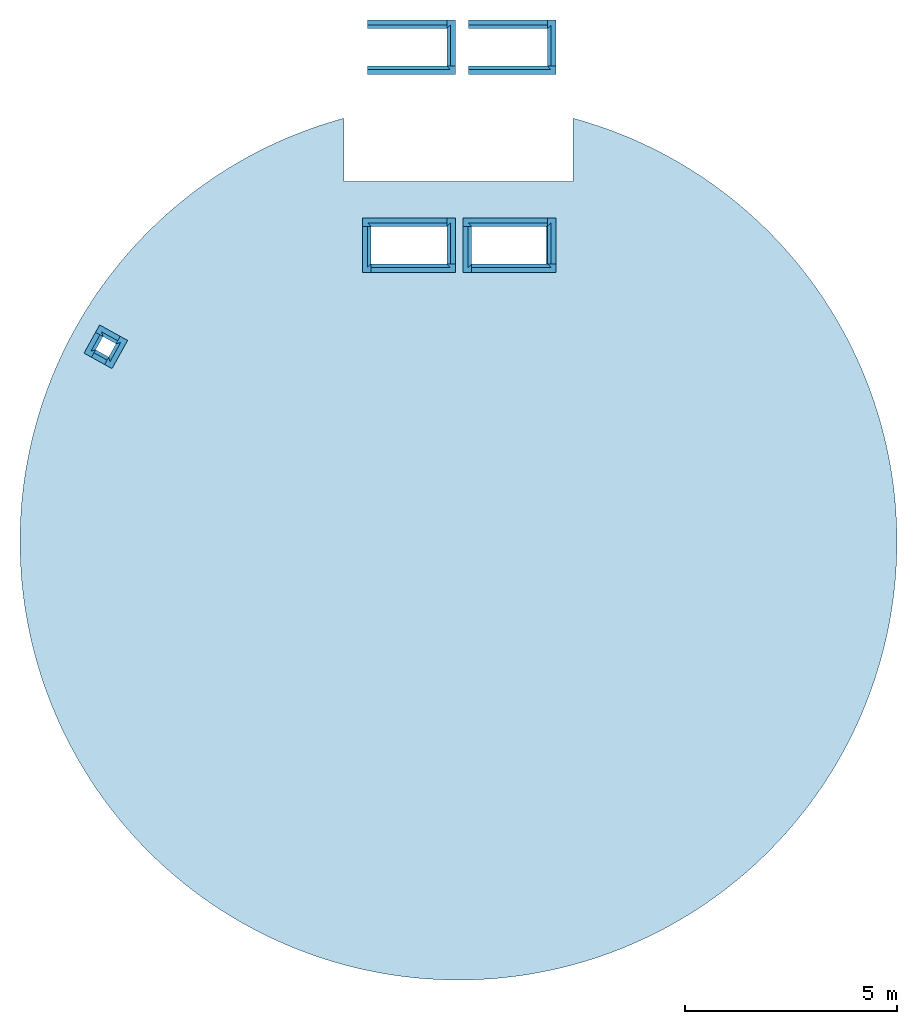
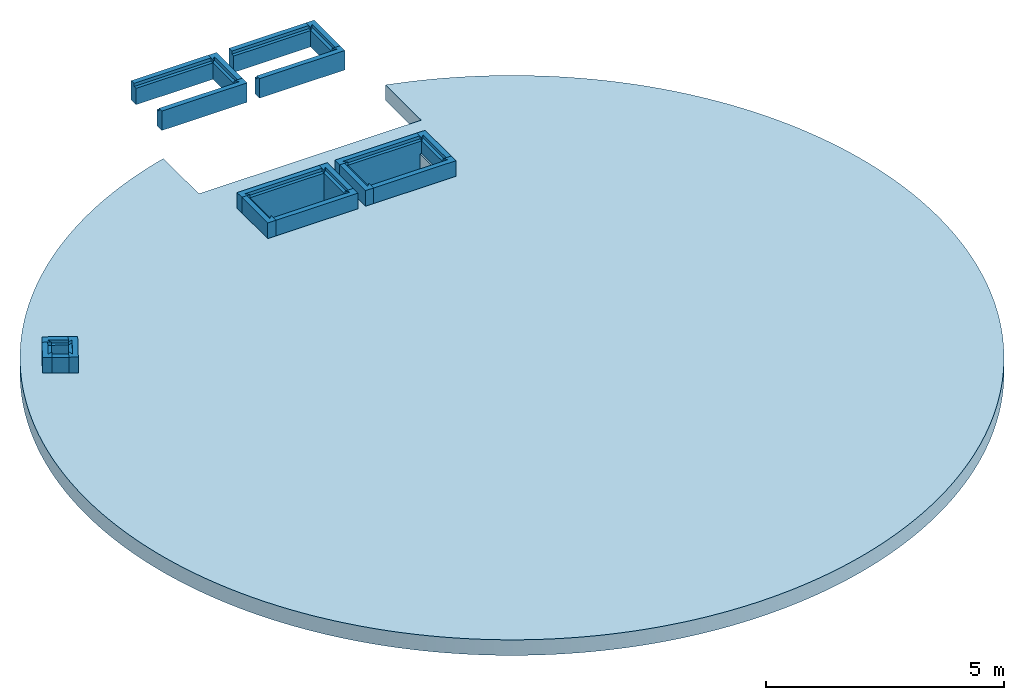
# One storey: 18 walls, 1 slab, 21 openings.
"""IFC2X3 building model written with IfcOpenShell, lengths in centimetres."""

from ifc_helpers import new_model, entity, si_unit, converted_unit, derived_unit, direction, frame, frame_2d, origin, origin_2d_with_axis, place, context, subcontext, project, spatial, polyline, circle_curve, parameter, trimmed, segment, composite_curve, rectangle, outline, extrude, faceted_brep, material, layer, layer_set, layer_usage, type_object, element, save


model = new_model("IFC2X3")

# Units and contexts
model_context = context("Model", 3, precision=0.001, world=origin(), true_north=direction((6.12303176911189e-17, 1.0)))
body_context = subcontext(model_context, "Body", "Model", "MODEL_VIEW")
ifc_project = project(units=[si_unit("LENGTHUNIT", "METRE", prefix="CENTI"), si_unit("AREAUNIT", "SQUARE_METRE"), si_unit("VOLUMEUNIT", "CUBIC_METRE"), converted_unit("PLANEANGLEUNIT", "DEGREE", entity("IfcRatioMeasure", 0.0174532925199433), si_unit("PLANEANGLEUNIT", "RADIAN"), dimensions=[0, 0, 0, 0, 0, 0, 0]), si_unit("MASSUNIT", "GRAM", prefix="KILO"), derived_unit("MASSDENSITYUNIT", [(si_unit("MASSUNIT", "GRAM", prefix="KILO"), 1), (si_unit("LENGTHUNIT", "METRE"), -3)]), si_unit("TIMEUNIT", "SECOND"), si_unit("FREQUENCYUNIT", "HERTZ"), si_unit("THERMODYNAMICTEMPERATUREUNIT", "DEGREE_CELSIUS"), derived_unit("THERMALTRANSMITTANCEUNIT", [(si_unit("MASSUNIT", "GRAM", prefix="KILO"), 1), (si_unit("THERMODYNAMICTEMPERATUREUNIT", "KELVIN"), -1), (si_unit("TIMEUNIT", "SECOND"), -3)]), derived_unit("VOLUMETRICFLOWRATEUNIT", [(si_unit("LENGTHUNIT", "METRE"), 3), (si_unit("TIMEUNIT", "SECOND"), -1)]), si_unit("ELECTRICCURRENTUNIT", "AMPERE"), si_unit("ELECTRICVOLTAGEUNIT", "VOLT"), si_unit("POWERUNIT", "WATT"), si_unit("FORCEUNIT", "NEWTON", prefix="KILO"), si_unit("ILLUMINANCEUNIT", "LUX"), si_unit("LUMINOUSFLUXUNIT", "LUMEN"), si_unit("LUMINOUSINTENSITYUNIT", "CANDELA"), derived_unit("USERDEFINED", [(si_unit("MASSUNIT", "GRAM", prefix="KILO"), -1), (si_unit("LENGTHUNIT", "METRE"), -2), (si_unit("TIMEUNIT", "SECOND"), 3), (si_unit("LUMINOUSFLUXUNIT", "LUMEN"), 1)]), derived_unit("LINEARVELOCITYUNIT", [(si_unit("LENGTHUNIT", "METRE"), 1), (si_unit("TIMEUNIT", "SECOND"), -1)]), si_unit("PRESSUREUNIT", "PASCAL"), derived_unit("USERDEFINED", [(si_unit("LENGTHUNIT", "METRE"), -2), (si_unit("MASSUNIT", "GRAM", prefix="KILO"), 1), (si_unit("TIMEUNIT", "SECOND"), -2)])], contexts=[model_context])

# Site, building, storey
site_placement = place(None, origin())
site = spatial("IfcSite", under=ifc_project, at=site_placement, Name="Default", CompositionType="ELEMENT")
building_placement = place(site_placement, origin())
building = spatial("IfcBuilding", under=site, at=building_placement, CompositionType="ELEMENT")
storey_placement = place(building_placement, frame((0.0, 0.0, -50.0)))
storey = spatial("IfcBuildingStorey", under=building, at=storey_placement, Name="Niveau dessus dalle", CompositionType="ELEMENT", Elevation=-50.0)

# Slab, openings
ifc_material_1 = material(Name="Béton, coulé sur place")
ifc_layer_1 = layer(ifc_material_1, 40.0)
ifc_layer_set_1 = layer_set([ifc_layer_1], Name="Sol:Béton - 400mm JBTP")
ifc_layer_usage_1 = layer_usage(ifc_layer_set_1, "AXIS3", "POSITIVE", 0.0)
slab_placement = place(storey_placement, frame((-1036.70244124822, -1034.98904075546, -30.0)))
slab = element("IfcSlab", 1, at=slab_placement, inside=storey, material=ifc_layer_usage_1, Name="Sol:Béton - 400mm JBTP", ObjectType="Sol:Béton - 400mm JBTP", PredefinedType="FLOOR", context=body_context, shape_type="SweptSolid", body=[
    extrude(outline(composite_curve([segment(trimmed(circle_curve(frame_2d((0.0, 17.9189254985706), x_axis=(-1.0, 0.0)), 1035.0), [parameter(285.121665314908)], [parameter(254.878334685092)], True, "PARAMETER"), True, "CONTINUOUS"), segment(polyline([(270.0, 1017.08107450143), (270.0, 867.785586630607)]), True, "CONTINUOUS"), segment(polyline([(270.0, 867.785586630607), (-270.0, 867.785586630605)]), True, "CONTINUOUS"), segment(polyline([(-270.0, 867.785586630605), (-270.0, 1017.08107450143)]), True, "CONTINUOUS")], self_intersect=False)), frame((1034.9633748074, 1017.08107450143, 40.0), z_axis=(0.0, 0.0, -1.0), x_axis=(-1.0, 0.0, 0.0)), (0.0, 0.0, 1.0), 40.0),
])
opening_1_placement = place(slab_placement, origin())
element("IfcOpeningElement", 2, at=opening_1_placement, cuts=slab, ObjectType="Opening", context=body_context, shape_type="SweptSolid", body=[
    extrude(rectangle(XDim=175.500000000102, YDim=89.0000000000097, at=origin_2d_with_axis()), frame((1153.45244124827, 1734.48904075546, -325.332978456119), z_axis=(0.0, 0.0, 1.0), x_axis=(-1.0, 0.0, 0.0)), (0.0, 0.0, 1.0), 625.33297845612),
])
opening_2_placement = place(slab_placement, origin())
element("IfcOpeningElement", 3, at=opening_2_placement, cuts=slab, ObjectType="Opening", context=body_context, shape_type="SweptSolid", body=[
    extrude(rectangle(XDim=179.500000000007, YDim=89.0000000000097, at=origin_2d_with_axis()), frame((917.952441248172, 1734.48904075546, -325.332978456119), z_axis=(0.0, 0.0, 1.0), x_axis=(-1.0, 0.0, 0.0)), (0.0, 0.0, 1.0), 625.33297845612),
])
opening_3_placement = place(slab_placement, origin())
element("IfcOpeningElement", 4, at=opening_3_placement, cuts=slab, ObjectType="Opening", context=body_context, shape_type="SweptSolid", body=[
    extrude(rectangle(XDim=53.5, YDim=52.9503067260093, at=origin_2d_with_axis()), frame((197.49352727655, 1493.21318065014, -325.332978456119), z_axis=(0.0, 0.0, 1.0), x_axis=(-0.484809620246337, -0.874619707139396, 0.0)), (0.0, 0.0, 1.0), 625.33297845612),
])

# Wall, opening
ifc_material_2 = material(Name="Mur par défaut")
ifc_layer_2 = layer(ifc_material_2, 20.0)
ifc_layer_set_2 = layer_set([ifc_layer_2], Name="Mur de base:Voile béton ep. 15cm")
ifc_layer_usage_2 = layer_usage(ifc_layer_set_2, "AXIS2", "NEGATIVE", 10.0)
wall_type = type_object("IfcWallType", Name="Mur de base:Voile béton ep. 15cm", PredefinedType="STANDARD", material=ifc_layer_set_2)
wall_1_placement = place(storey_placement, frame((21.4999999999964, 1221.0, 0.0)))
wall_1 = element("IfcWallStandardCase", 5, at=wall_1_placement, inside=storey, type_object=wall_type, material=ifc_layer_usage_2, Name="Mur de base:Voile béton ep. 15cm", ObjectType="Mur de base:Voile béton ep. 15cm", context=body_context, shape_type="SweptSolid", body=[
    extrude(rectangle(XDim=186.999999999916, YDim=20.0000000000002, at=frame_2d((93.4999999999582, 0.0), x_axis=(-1.0, 0.0))), origin(), (0.0, 0.0, 1.0), 50.0),
])
opening_4_placement = place(wall_1_placement, frame((0.0, -10.0, 42.0)))
element("IfcOpeningElement", 6, at=opening_4_placement, cuts=wall_1, Name="Mur de base:Voile béton ep. 15cm", ObjectType="Opening", context=body_context, shape_type="Brep", body=[
    faceted_brep([(0.0, 0.0, 8.0), (0.0, 8.0, 8.0), (0.0, 8.0, 0.0), (0.0, 0.0, 0.0), (187.0, 0.0, 8.0), (187.0, 0.0, 0.0), (195.0, 8.0, 0.0), (195.0, 8.0, 8.0)], [[[0, 1, 2, 3]], [[4, 5, 6, 7]], [[1, 0, 4, 7]], [[2, 1, 7, 6]], [[3, 2, 6, 5]], [[0, 3, 5, 4]]]),
])

ifc_layer_usage_3 = layer_usage(ifc_layer_set_2, "AXIS2", "NEGATIVE", 10.0)
wall_2_placement = place(storey_placement, frame((228.499999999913, 1112.0, 0.0), z_axis=(0.0, 0.0, 1.0), x_axis=(-1.0, 0.0, 0.0)))
wall_2 = element("IfcWallStandardCase", 7, at=wall_2_placement, inside=storey, type_object=wall_type, material=ifc_layer_usage_3, Name="Mur de base:Voile béton ep. 15cm", ObjectType="Mur de base:Voile béton ep. 15cm", context=body_context, shape_type="SweptSolid", body=[
    extrude(rectangle(XDim=206.999999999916, YDim=20.0000000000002, at=frame_2d((103.499999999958, 0.0), x_axis=(-1.0, 0.0))), origin(), (0.0, 0.0, 1.0), 50.0),
])
opening_5_placement = place(wall_2_placement, frame((207.0, -2.0, 42.0)))
element("IfcOpeningElement", 8, at=opening_5_placement, cuts=wall_2, Name="Mur de base:Voile béton ep. 15cm", ObjectType="Opening", context=body_context, shape_type="Brep", body=[
    faceted_brep([(-187.0, -8.0, 8.0), (-195.0, 0.0, 8.0), (-195.0, 0.0, 0.0), (-187.0, -8.0, 0.0), (0.0, -8.0, 8.0), (0.0, -8.0, 0.0), (0.0, 0.0, 0.0), (0.0, 0.0, 8.0)], [[[0, 1, 2, 3]], [[4, 5, 6, 7]], [[1, 0, 4, 7]], [[2, 1, 7, 6]], [[3, 2, 6, 5]], [[0, 3, 5, 4]]]),
])

ifc_layer_usage_4 = layer_usage(ifc_layer_set_2, "AXIS2", "NEGATIVE", 10.0)
wall_3_placement = place(storey_placement, frame((218.499999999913, 1231.0, 0.0), z_axis=(0.0, 0.0, 1.0), x_axis=(0.0, -1.0, 0.0)))
wall_3 = element("IfcWallStandardCase", 9, at=wall_3_placement, inside=storey, type_object=wall_type, material=ifc_layer_usage_4, Name="Mur de base:Voile béton ep. 15cm", ObjectType="Mur de base:Voile béton ep. 15cm", context=body_context, shape_type="SweptSolid", body=[
    extrude(rectangle(XDim=108.999999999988, YDim=20.0, at=frame_2d((54.4999999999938, 0.0), x_axis=(-1.0, 0.0))), origin(), (0.0, 0.0, 1.0), 50.0),
])
opening_6_placement = place(wall_3_placement, frame((117.0, -10.0, 42.0)))
element("IfcOpeningElement", 10, at=opening_6_placement, cuts=wall_3, Name="Mur de base:Voile béton ep. 15cm", ObjectType="Opening", context=body_context, shape_type="Brep", body=[
    faceted_brep([(-97.0, 0.0, 8.0), (-105.0, 8.0, 8.0), (-105.0, 8.0, 0.0), (-97.0, 0.0, 0.0), (-8.0, 0.0, 8.0), (-8.0, 0.0, 0.0), (0.0, 8.0, 0.0), (0.0, 8.0, 8.0)], [[[0, 1, 2, 3]], [[4, 5, 6, 7]], [[1, 0, 4, 7]], [[2, 1, 7, 6]], [[3, 2, 6, 5]], [[0, 3, 5, 4]]]),
])

ifc_layer_usage_5 = layer_usage(ifc_layer_set_2, "AXIS2", "NEGATIVE", 10.0)
wall_4_placement = place(storey_placement, frame((-216.0, 1221.0, 0.0)))
wall_4 = element("IfcWallStandardCase", 11, at=wall_4_placement, inside=storey, type_object=wall_type, material=ifc_layer_usage_5, Name="Mur de base:Voile béton ep. 15cm", ObjectType="Mur de base:Voile béton ep. 15cm", context=body_context, shape_type="SweptSolid", body=[
    extrude(rectangle(XDim=186.999999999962, YDim=19.9999999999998, at=frame_2d((93.4999999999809, 0.0), x_axis=(-1.0, 0.0))), origin(), (0.0, 0.0, 1.0), 50.0),
])
opening_7_placement = place(wall_4_placement, frame((0.0, -10.0, 42.0)))
element("IfcOpeningElement", 12, at=opening_7_placement, cuts=wall_4, Name="Mur de base:Voile béton ep. 15cm", ObjectType="Opening", context=body_context, shape_type="Brep", body=[
    faceted_brep([(0.0, 0.0, 8.0), (0.0, 8.0, 8.0), (0.0, 8.0, 0.0), (0.0, 0.0, 0.0), (187.0, 0.0, 8.0), (187.0, 0.0, 0.0), (195.0, 8.0, 0.0), (195.0, 8.0, 8.0)], [[[0, 1, 2, 3]], [[4, 5, 6, 7]], [[1, 0, 4, 7]], [[2, 1, 7, 6]], [[3, 2, 6, 5]], [[0, 3, 5, 4]]]),
])

ifc_layer_usage_6 = layer_usage(ifc_layer_set_2, "AXIS2", "NEGATIVE", 10.0)
wall_5_placement = place(storey_placement, frame((-9.0, 1112.0, 0.0), z_axis=(0.0, 0.0, 1.0), x_axis=(-1.0, 0.0, 0.0)))
wall_5 = element("IfcWallStandardCase", 13, at=wall_5_placement, inside=storey, type_object=wall_type, material=ifc_layer_usage_6, Name="Mur de base:Voile béton ep. 15cm", ObjectType="Mur de base:Voile béton ep. 15cm", context=body_context, shape_type="SweptSolid", body=[
    extrude(rectangle(XDim=206.999999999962, YDim=20.0000000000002, at=frame_2d((103.499999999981, 0.0), x_axis=(-1.0, 0.0))), origin(), (0.0, 0.0, 1.0), 50.0),
])
opening_8_placement = place(wall_5_placement, frame((207.0, -2.0, 42.0)))
element("IfcOpeningElement", 14, at=opening_8_placement, cuts=wall_5, Name="Mur de base:Voile béton ep. 15cm", ObjectType="Opening", context=body_context, shape_type="Brep", body=[
    faceted_brep([(-187.0, -8.0, 8.0), (-195.0, 0.0, 8.0), (-195.0, 0.0, 0.0), (-187.0, -8.0, 0.0), (0.0, -8.0, 8.0), (0.0, -8.0, 0.0), (0.0, 0.0, 0.0), (0.0, 0.0, 8.0)], [[[0, 1, 2, 3]], [[4, 5, 6, 7]], [[1, 0, 4, 7]], [[2, 1, 7, 6]], [[3, 2, 6, 5]], [[0, 3, 5, 4]]]),
])

ifc_layer_usage_7 = layer_usage(ifc_layer_set_2, "AXIS2", "NEGATIVE", 10.0)
wall_6_placement = place(storey_placement, frame((-19.0, 1231.0, 0.0), z_axis=(0.0, 0.0, 1.0), x_axis=(0.0, -1.0, 0.0)))
wall_6 = element("IfcWallStandardCase", 15, at=wall_6_placement, inside=storey, type_object=wall_type, material=ifc_layer_usage_7, Name="Mur de base:Voile béton ep. 15cm", ObjectType="Mur de base:Voile béton ep. 15cm", context=body_context, shape_type="SweptSolid", body=[
    extrude(rectangle(XDim=109.00000000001, YDim=20.0, at=frame_2d((54.500000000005, 0.0), x_axis=(-1.0, 0.0))), origin(), (0.0, 0.0, 1.0), 50.0),
])
opening_9_placement = place(wall_6_placement, frame((117.0, -10.0, 42.0)))
element("IfcOpeningElement", 16, at=opening_9_placement, cuts=wall_6, Name="Mur de base:Voile béton ep. 15cm", ObjectType="Opening", context=body_context, shape_type="Brep", body=[
    faceted_brep([(-97.0, 0.0, 8.0), (-105.0, 8.0, 8.0), (-105.0, 8.0, 0.0), (-97.0, 0.0, 0.0), (-8.0, 0.0, 8.0), (-8.0, 0.0, 0.0), (0.0, 8.0, 0.0), (0.0, 8.0, 8.0)], [[[0, 1, 2, 3]], [[4, 5, 6, 7]], [[1, 0, 4, 7]], [[2, 1, 7, 6]], [[3, 2, 6, 5]], [[0, 3, 5, 4]]]),
])

ifc_layer_usage_8 = layer_usage(ifc_layer_set_2, "AXIS2", "NEGATIVE", 10.0)
wall_7_placement = place(storey_placement, frame((-228.500000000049, 754.0, -50.0)))
wall_7 = element("IfcWallStandardCase", 17, at=wall_7_placement, inside=storey, type_object=wall_type, material=ifc_layer_usage_8, Name="Mur de base:Voile béton ep. 15cm", ObjectType="Mur de base:Voile béton ep. 15cm", context=body_context, shape_type="SweptSolid", body=[
    extrude(rectangle(XDim=199.500000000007, YDim=20.0, at=frame_2d((99.7500000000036, 0.0), x_axis=(-1.0, 0.0))), origin(), (0.0, 0.0, 1.0), 100.0),
])
opening_10_placement = place(wall_7_placement, frame((12.0, -10.0, 92.0)))
element("IfcOpeningElement", 18, at=opening_10_placement, cuts=wall_7, Name="Mur de base:Voile béton ep. 15cm", ObjectType="Opening", context=body_context, shape_type="Brep", body=[
    faceted_brep([(8.0, 0.0, 8.0), (0.0, 8.0, 8.0), (0.0, 8.0, 0.0), (8.0, 0.0, 0.0), (187.500000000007, 0.0, 8.0), (187.500000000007, 0.0, 0.0), (195.500000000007, 8.0, 0.0), (195.500000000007, 8.0, 8.0)], [[[0, 1, 2, 3]], [[4, 5, 6, 7]], [[1, 0, 4, 7]], [[2, 1, 7, 6]], [[3, 2, 6, 5]], [[0, 3, 5, 4]]]),
])

ifc_layer_usage_9 = layer_usage(ifc_layer_set_2, "AXIS2", "NEGATIVE", 10.0)
wall_8_placement = place(storey_placement, frame((-218.500000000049, 635.0, -50.0), z_axis=(0.0, 0.0, 1.0), x_axis=(0.0, 1.0, 0.0)))
wall_8 = element("IfcWallStandardCase", 19, at=wall_8_placement, inside=storey, type_object=wall_type, material=ifc_layer_usage_9, Name="Mur de base:Voile béton ep. 15cm", ObjectType="Mur de base:Voile béton ep. 15cm", context=body_context, shape_type="SweptSolid", body=[
    extrude(rectangle(XDim=109.00000000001, YDim=20.0, at=frame_2d((54.500000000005, 0.0), x_axis=(-1.0, 0.0))), origin(), (0.0, 0.0, 1.0), 100.0),
])
opening_11_placement = place(wall_8_placement, frame((12.0, -2.0, 92.0)))
element("IfcOpeningElement", 20, at=opening_11_placement, cuts=wall_8, Name="Mur de base:Voile béton ep. 15cm", ObjectType="Opening", context=body_context, shape_type="Brep", body=[
    faceted_brep([(8.0, -8.0, 8.0), (0.0, 0.0, 8.0), (0.0, 0.0, 0.0), (8.0, -8.0, 0.0), (97.0, -8.0, 8.0), (97.0, -8.0, 0.0), (105.0, 0.0, 0.0), (105.0, 0.0, 8.0)], [[[0, 1, 2, 3]], [[4, 5, 6, 7]], [[1, 0, 4, 7]], [[2, 1, 7, 6]], [[3, 2, 6, 5]], [[0, 3, 5, 4]]]),
])

ifc_layer_usage_10 = layer_usage(ifc_layer_set_2, "AXIS2", "NEGATIVE", 10.0)
wall_9_placement = place(storey_placement, frame((-9.0, 645.0, -50.0), z_axis=(0.0, 0.0, 1.0), x_axis=(-1.0, 0.0, 0.0)))
wall_9 = element("IfcWallStandardCase", 21, at=wall_9_placement, inside=storey, type_object=wall_type, material=ifc_layer_usage_10, Name="Mur de base:Voile béton ep. 15cm", ObjectType="Mur de base:Voile béton ep. 15cm", context=body_context, shape_type="SweptSolid", body=[
    extrude(rectangle(XDim=199.500000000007, YDim=20.0, at=frame_2d((99.7500000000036, 0.0), x_axis=(-1.0, 0.0))), origin(), (0.0, 0.0, 1.0), 100.0),
])
opening_12_placement = place(wall_9_placement, frame((207.500000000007, -2.0, 92.0)))
element("IfcOpeningElement", 22, at=opening_12_placement, cuts=wall_9, Name="Mur de base:Voile béton ep. 15cm", ObjectType="Opening", context=body_context, shape_type="Brep", body=[
    faceted_brep([(-187.500000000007, -8.0, 8.0), (-195.500000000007, 0.0, 8.0), (-195.500000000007, 0.0, 0.0), (-187.500000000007, -8.0, 0.0), (-8.0, -8.0, 8.0), (-8.0, -8.0, 0.0), (0.0, 0.0, 0.0), (0.0, 0.0, 8.0)], [[[0, 1, 2, 3]], [[4, 5, 6, 7]], [[1, 0, 4, 7]], [[2, 1, 7, 6]], [[3, 2, 6, 5]], [[0, 3, 5, 4]]]),
])

ifc_layer_usage_11 = layer_usage(ifc_layer_set_2, "AXIS2", "NEGATIVE", 10.0)
wall_10_placement = place(storey_placement, frame((-19.0, 764.0, -50.0), z_axis=(0.0, 0.0, 1.0), x_axis=(0.0, -1.0, 0.0)))
wall_10 = element("IfcWallStandardCase", 23, at=wall_10_placement, inside=storey, type_object=wall_type, material=ifc_layer_usage_11, Name="Mur de base:Voile béton ep. 15cm", ObjectType="Mur de base:Voile béton ep. 15cm", context=body_context, shape_type="SweptSolid", body=[
    extrude(rectangle(XDim=109.00000000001, YDim=20.0, at=frame_2d((54.500000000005, 0.0), x_axis=(-1.0, 0.0))), origin(), (0.0, 0.0, 1.0), 100.0),
])
opening_13_placement = place(wall_10_placement, frame((117.0, -10.0, 92.0)))
element("IfcOpeningElement", 24, at=opening_13_placement, cuts=wall_10, Name="Mur de base:Voile béton ep. 15cm", ObjectType="Opening", context=body_context, shape_type="Brep", body=[
    faceted_brep([(-97.0, 0.0, 8.0), (-105.0, 8.0, 8.0), (-105.0, 8.0, 0.0), (-97.0, 0.0, 0.0), (-8.0, 0.0, 8.0), (-8.0, 0.0, 0.0), (0.0, 8.0, 0.0), (0.0, 8.0, 8.0)], [[[0, 1, 2, 3]], [[4, 5, 6, 7]], [[1, 0, 4, 7]], [[2, 1, 7, 6]], [[3, 2, 6, 5]], [[0, 3, 5, 4]]]),
])

ifc_layer_usage_12 = layer_usage(ifc_layer_set_2, "AXIS2", "NEGATIVE", 10.0)
wall_11_placement = place(storey_placement, frame((228.500000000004, 645.0, 0.0), z_axis=(0.0, 0.0, 1.0), x_axis=(-1.0, 0.0, 0.0)))
wall_11 = element("IfcWallStandardCase", 25, at=wall_11_placement, inside=storey, type_object=wall_type, material=ifc_layer_usage_12, Name="Mur de base:Voile béton ep. 15cm", ObjectType="Mur de base:Voile béton ep. 15cm", context=body_context, shape_type="SweptSolid", body=[
    extrude(rectangle(XDim=199.500000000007, YDim=20.0, at=frame_2d((99.7500000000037, 0.0), x_axis=(-1.0, 0.0))), origin(), (0.0, 0.0, 1.0), 50.0),
])
opening_14_placement = place(wall_11_placement, frame((207.500000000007, -2.0, 42.0)))
element("IfcOpeningElement", 26, at=opening_14_placement, cuts=wall_11, Name="Mur de base:Voile béton ep. 15cm", ObjectType="Opening", context=body_context, shape_type="Brep", body=[
    faceted_brep([(-187.500000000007, -8.0, 8.0), (-195.500000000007, 0.0, 8.0), (-195.500000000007, 0.0, 0.0), (-187.500000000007, -8.0, 0.0), (-8.0, -8.0, 8.0), (-8.0, -8.0, 0.0), (0.0, 0.0, 0.0), (0.0, 0.0, 8.0)], [[[0, 1, 2, 3]], [[4, 5, 6, 7]], [[1, 0, 4, 7]], [[2, 1, 7, 6]], [[3, 2, 6, 5]], [[0, 3, 5, 4]]]),
])

ifc_layer_usage_13 = layer_usage(ifc_layer_set_2, "AXIS2", "NEGATIVE", 10.0)
wall_12_placement = place(storey_placement, frame((218.500000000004, 764.0, -50.0), z_axis=(0.0, 0.0, 1.0), x_axis=(0.0, -1.0, 0.0)))
wall_12 = element("IfcWallStandardCase", 27, at=wall_12_placement, inside=storey, type_object=wall_type, material=ifc_layer_usage_13, Name="Mur de base:Voile béton ep. 15cm", ObjectType="Mur de base:Voile béton ep. 15cm", context=body_context, shape_type="SweptSolid", body=[
    extrude(rectangle(XDim=109.00000000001, YDim=20.0, at=frame_2d((54.5000000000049, 0.0), x_axis=(-1.0, 0.0))), origin(), (0.0, 0.0, 1.0), 100.0),
])
opening_15_placement = place(wall_12_placement, frame((117.0, -10.0, 92.0)))
element("IfcOpeningElement", 28, at=opening_15_placement, cuts=wall_12, Name="Mur de base:Voile béton ep. 15cm", ObjectType="Opening", context=body_context, shape_type="Brep", body=[
    faceted_brep([(-97.0, 0.0, 8.0), (-105.0, 8.0, 8.0), (-105.0, 8.0, 0.0), (-97.0, 0.0, 0.0), (-8.0, 0.0, 8.0), (-8.0, 0.0, 0.0), (0.0, 8.0, 0.0), (0.0, 8.0, 8.0)], [[[0, 1, 2, 3]], [[4, 5, 6, 7]], [[1, 0, 4, 7]], [[2, 1, 7, 6]], [[3, 2, 6, 5]], [[0, 3, 5, 4]]]),
])

ifc_layer_usage_14 = layer_usage(ifc_layer_set_2, "AXIS2", "NEGATIVE", 10.0)
wall_13_placement = place(storey_placement, frame((9.0, 754.0, -50.0)))
wall_13 = element("IfcWallStandardCase", 29, at=wall_13_placement, inside=storey, type_object=wall_type, material=ifc_layer_usage_14, Name="Mur de base:Voile béton ep. 15cm", ObjectType="Mur de base:Voile béton ep. 15cm", context=body_context, shape_type="SweptSolid", body=[
    extrude(rectangle(XDim=199.500000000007, YDim=20.0, at=frame_2d((99.7500000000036, 3.5527136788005e-15), x_axis=(-1.0, 0.0))), origin(), (0.0, 0.0, 1.0), 100.0),
])
opening_16_placement = place(wall_13_placement, frame((12.0, -10.0, 92.0)))
element("IfcOpeningElement", 30, at=opening_16_placement, cuts=wall_13, Name="Mur de base:Voile béton ep. 15cm", ObjectType="Opening", context=body_context, shape_type="Brep", body=[
    faceted_brep([(8.0, 0.0, 8.0), (0.0, 8.0, 8.0), (0.0, 8.0, 0.0), (8.0, 0.0, 0.0), (187.500000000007, 0.0, 8.0), (187.500000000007, 0.0, 0.0), (195.500000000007, 8.0, 0.0), (195.500000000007, 8.0, 8.0)], [[[0, 1, 2, 3]], [[4, 5, 6, 7]], [[1, 0, 4, 7]], [[2, 1, 7, 6]], [[3, 2, 6, 5]], [[0, 3, 5, 4]]]),
])

ifc_layer_usage_15 = layer_usage(ifc_layer_set_2, "AXIS2", "NEGATIVE", 10.0)
wall_14_placement = place(storey_placement, frame((19.0, 635.0, -50.0), z_axis=(0.0, 0.0, 1.0), x_axis=(0.0, 1.0, 0.0)))
wall_14 = element("IfcWallStandardCase", 31, at=wall_14_placement, inside=storey, type_object=wall_type, material=ifc_layer_usage_15, Name="Mur de base:Voile béton ep. 15cm", ObjectType="Mur de base:Voile béton ep. 15cm", context=body_context, shape_type="SweptSolid", body=[
    extrude(rectangle(XDim=109.00000000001, YDim=20.0, at=frame_2d((54.500000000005, 0.0), x_axis=(-1.0, 0.0))), origin(), (0.0, 0.0, 1.0), 100.0),
])
opening_17_placement = place(wall_14_placement, frame((12.0, -2.0, 92.0)))
element("IfcOpeningElement", 32, at=opening_17_placement, cuts=wall_14, Name="Mur de base:Voile béton ep. 15cm", ObjectType="Opening", context=body_context, shape_type="Brep", body=[
    faceted_brep([(8.0, -8.0, 8.0), (0.0, 0.0, 8.0), (0.0, 0.0, 0.0), (8.0, -8.0, 0.0), (97.0, -8.0, 8.0), (97.0, -8.0, 0.0), (105.0, 0.0, 0.0), (105.0, 0.0, 8.0)], [[[0, 1, 2, 3]], [[4, 5, 6, 7]], [[1, 0, 4, 7]], [[2, 1, 7, 6]], [[3, 2, 6, 5]], [[0, 3, 5, 4]]]),
])

ifc_layer_usage_16 = layer_usage(ifc_layer_set_2, "AXIS2", "POSITIVE", -10.0)
wall_15_placement = place(storey_placement, frame((-828.284854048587, 413.008957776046, 0.0), z_axis=(0.0, 0.0, 1.0), x_axis=(0.484809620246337, 0.874619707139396, 0.0)))
wall_15 = element("IfcWallStandardCase", 33, at=wall_15_placement, inside=storey, type_object=wall_type, material=ifc_layer_usage_16, Name="Mur de base:Voile béton ep. 15cm", ObjectType="Mur de base:Voile béton ep. 15cm", context=body_context, shape_type="SweptSolid", body=[
    extrude(rectangle(XDim=76.0000000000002, YDim=20.0000000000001, at=frame_2d((38.0000000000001, 1.4210854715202e-14), x_axis=(-1.0, 0.0))), origin(), (0.0, 0.0, 1.0), 50.0),
])
opening_18_placement = place(wall_15_placement, frame((10.4881305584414, 4.72748467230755, 42.0)))
element("IfcOpeningElement", 34, at=opening_18_placement, cuts=wall_15, Name="Mur de base:Voile béton ep. 15cm", ObjectType="Opening", context=body_context, shape_type="Brep", body=[
    faceted_brep([(9.51186944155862, 5.27251532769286, 8.0), (9.51186944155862, 5.27251532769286, 0.0), (1.51186944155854, -2.72748467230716, 0.0), (1.51186944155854, -2.72748467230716, 8.0), (45.5118694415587, 5.27251532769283, 8.0), (53.5118694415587, -2.72748467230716, 8.0), (53.5118694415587, -2.72748467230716, 0.0), (45.5118694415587, 5.27251532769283, 0.0)], [[[0, 1, 2, 3]], [[4, 5, 6, 7]], [[0, 3, 5, 4]], [[3, 2, 6, 5]], [[2, 1, 7, 6]], [[1, 0, 4, 7]]]),
])

ifc_layer_usage_17 = layer_usage(ifc_layer_set_2, "AXIS2", "POSITIVE", -10.0)
wall_16_placement = place(storey_placement, frame((-805.033616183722, 475.58195464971, 0.0), z_axis=(0.0, 0.0, 1.0), x_axis=(-0.874619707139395, 0.484809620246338, 0.0)))
wall_16 = element("IfcWallStandardCase", 35, at=wall_16_placement, inside=storey, type_object=wall_type, material=ifc_layer_usage_17, Name="Mur de base:Voile béton ep. 15cm", ObjectType="Mur de base:Voile béton ep. 15cm", context=body_context, shape_type="SweptSolid", body=[
    extrude(rectangle(XDim=55.4503067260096, YDim=19.9999999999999, at=frame_2d((27.7251533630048, 1.86517468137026e-14), x_axis=(-1.0, 0.0))), origin(), (0.0, 0.0, 1.0), 50.0),
])
opening_19_placement = place(wall_16_placement, frame((29.8455382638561, 26.5436520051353, 42.0)))
element("IfcOpeningElement", 36, at=opening_19_placement, cuts=wall_16, Name="Mur de base:Voile béton ep. 15cm", ObjectType="Opening", context=body_context, shape_type="Brep", body=[
    faceted_brep([(-29.845538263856, -16.5436520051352, 8.0), (-29.845538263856, -16.5436520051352, 0.0), (-37.8455382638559, -24.5436520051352, 0.0), (-37.8455382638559, -24.5436520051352, 8.0), (5.60476846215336, -16.5436520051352, 8.0), (13.6047684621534, -24.5436520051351, 8.0), (13.6047684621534, -24.5436520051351, 0.0), (5.60476846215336, -16.5436520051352, 0.0)], [[[0, 1, 2, 3]], [[4, 5, 6, 7]], [[0, 3, 5, 4]], [[3, 2, 6, 5]], [[2, 1, 7, 6]], [[1, 0, 4, 7]]]),
])

ifc_layer_usage_18 = layer_usage(ifc_layer_set_2, "AXIS2", "POSITIVE", -10.0)
wall_17_placement = place(storey_placement, frame((-849.633446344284, 488.870503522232, 0.0), z_axis=(0.0, 0.0, 1.0), x_axis=(-0.484809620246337, -0.874619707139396, 0.0)))
wall_17 = element("IfcWallStandardCase", 37, at=wall_17_placement, inside=storey, type_object=wall_type, material=ifc_layer_usage_18, Name="Mur de base:Voile béton ep. 15cm", ObjectType="Mur de base:Voile béton ep. 15cm", context=body_context, shape_type="SweptSolid", body=[
    extrude(rectangle(XDim=56.0000000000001, YDim=20.0, at=frame_2d((28.0000000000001, -3.5527136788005e-15), x_axis=(-1.0, 0.0))), origin(), (0.0, 0.0, 1.0), 50.0),
])
opening_20_placement = place(wall_17_placement, frame((44.0, 2.0, 42.0)))
element("IfcOpeningElement", 38, at=opening_20_placement, cuts=wall_17, Name="Mur de base:Voile béton ep. 15cm", ObjectType="Opening", context=body_context, shape_type="Brep", body=[
    faceted_brep([(-44.0, 8.0, 8.0), (-44.0, 8.0, 0.0), (-52.0, 0.0, 0.0), (-52.0, 0.0, 8.0), (-8.0, 8.0, 8.0), (0.0, 0.0, 8.0), (0.0, 0.0, 0.0), (-8.0, 8.0, 0.0)], [[[0, 1, 2, 3]], [[4, 5, 6, 7]], [[0, 3, 5, 4]], [[3, 2, 6, 5]], [[2, 1, 7, 6]], [[1, 0, 4, 7]]]),
])

ifc_layer_usage_19 = layer_usage(ifc_layer_set_2, "AXIS2", "POSITIVE", -10.0)
wall_18_placement = place(storey_placement, frame((-863.188491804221, 443.789900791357, 0.0), z_axis=(0.0, 0.0, 1.0), x_axis=(0.874619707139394, -0.48480962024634, 0.0)))
wall_18 = element("IfcWallStandardCase", 39, at=wall_18_placement, inside=storey, type_object=wall_type, material=ifc_layer_usage_19, Name="Mur de base:Voile béton ep. 15cm", ObjectType="Mur de base:Voile béton ep. 15cm", context=body_context, shape_type="SweptSolid", body=[
    extrude(rectangle(XDim=35.4503067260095, YDim=20.0, at=frame_2d((17.7251533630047, 3.5527136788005e-15), x_axis=(-1.0, 0.0))), origin(), (0.0, 0.0, 1.0), 50.0),
])
opening_21_placement = place(wall_18_placement, frame((4.09289902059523, -19.8161673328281, 42.0)))
element("IfcOpeningElement", 40, at=opening_21_placement, cuts=wall_18, Name="Mur de base:Voile béton ep. 15cm", ObjectType="Opening", context=body_context, shape_type="Brep", body=[
    faceted_brep([(-4.09289902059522, 29.8161673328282, 8.0), (-4.09289902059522, 29.8161673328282, 0.0), (-12.0928990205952, 21.8161673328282, 0.0), (-12.0928990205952, 21.8161673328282, 8.0), (31.357407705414, 29.8161673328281, 8.0), (39.357407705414, 21.8161673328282, 8.0), (39.357407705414, 21.8161673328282, 0.0), (31.357407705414, 29.8161673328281, 0.0)], [[[0, 1, 2, 3]], [[4, 5, 6, 7]], [[0, 3, 5, 4]], [[3, 2, 6, 5]], [[2, 1, 7, 6]], [[1, 0, 4, 7]]]),
])

save(model, "model.ifc")
